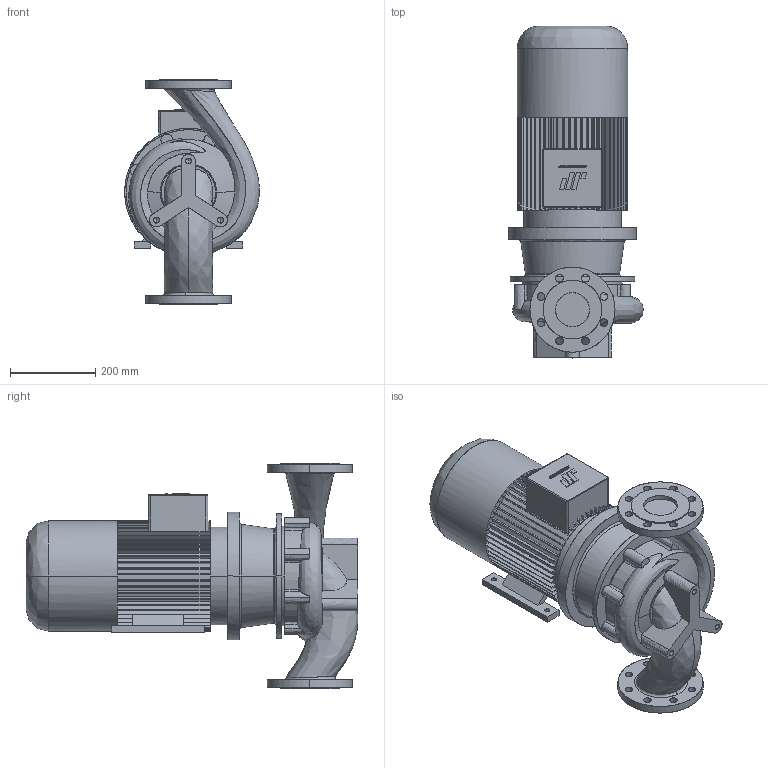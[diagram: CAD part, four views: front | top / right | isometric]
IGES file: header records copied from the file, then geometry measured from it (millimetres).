
Start section: CombiLine
Global section: file name: CLB_80-200_IEC132M_ND10.igs; native system:  By UGS Corp.; preprocessor: XPlus GENERIC/IGES 3.0; author: Stageplaats; organization: Johnson Pump Water B.V.; date: 20070717.093632; units: millimetre
Bounding box: 316.6 x 780 x 530 mm (x, y, z)
Surface area: 1441223.7 mm2 (no closed solid volume)
Topology: 0 solids, 0 shells, 597 faces, 3626 edges, 3620 vertices
Faces by surface type: bspline 597
